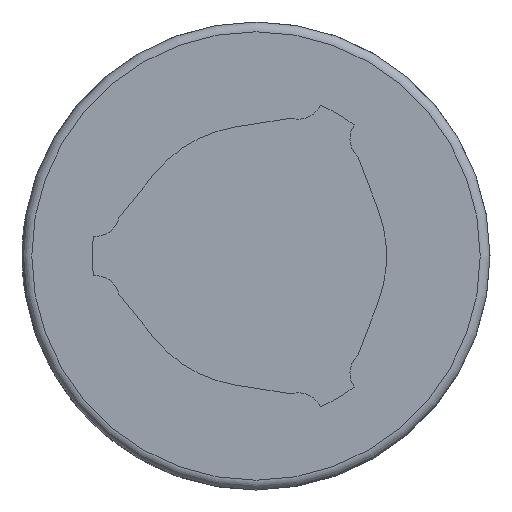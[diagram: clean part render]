
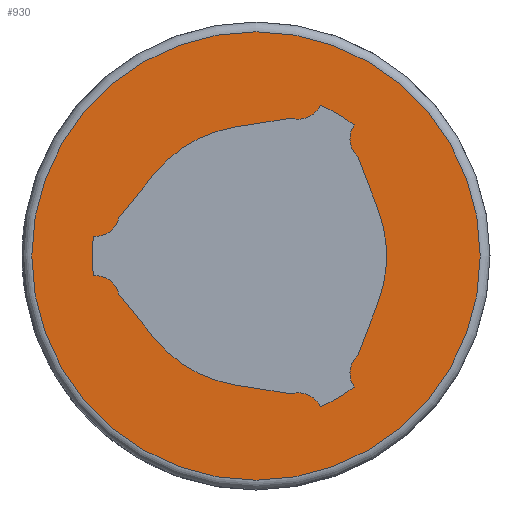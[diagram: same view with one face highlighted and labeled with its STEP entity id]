
A CAD part, left-side view. The second image highlights one B-rep face of the part: STEP entity #930.
In plain terms, the highlighted planar face has unit normal (-1, 0, 0).
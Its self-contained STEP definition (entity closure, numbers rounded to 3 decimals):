
#71=LINE('',#1439,#141);
#72=LINE('',#1448,#142);
#73=LINE('',#1452,#143);
#74=LINE('',#1460,#144);
#75=LINE('',#1464,#145);
#76=LINE('',#1472,#146);
#141=VECTOR('',#1135,1000.);
#142=VECTOR('',#1142,1000.);
#143=VECTOR('',#1145,1000.);
#144=VECTOR('',#1152,1000.);
#145=VECTOR('',#1155,1000.);
#146=VECTOR('',#1162,1000.);
#211=ORIENTED_EDGE('',*,*,#483,.F.);
#212=ORIENTED_EDGE('',*,*,#484,.T.);
#213=ORIENTED_EDGE('',*,*,#485,.F.);
#214=ORIENTED_EDGE('',*,*,#486,.T.);
#215=ORIENTED_EDGE('',*,*,#487,.F.);
#216=ORIENTED_EDGE('',*,*,#488,.T.);
#217=ORIENTED_EDGE('',*,*,#489,.T.);
#218=ORIENTED_EDGE('',*,*,#490,.T.);
#219=ORIENTED_EDGE('',*,*,#491,.F.);
#220=ORIENTED_EDGE('',*,*,#492,.T.);
#221=ORIENTED_EDGE('',*,*,#493,.F.);
#222=ORIENTED_EDGE('',*,*,#494,.T.);
#223=ORIENTED_EDGE('',*,*,#495,.T.);
#224=ORIENTED_EDGE('',*,*,#496,.T.);
#225=ORIENTED_EDGE('',*,*,#497,.F.);
#226=ORIENTED_EDGE('',*,*,#498,.T.);
#227=ORIENTED_EDGE('',*,*,#499,.F.);
#228=ORIENTED_EDGE('',*,*,#500,.T.);
#229=ORIENTED_EDGE('',*,*,#501,.T.);
#483=EDGE_CURVE('',#619,#619,#713,.T.);
#484=EDGE_CURVE('',#620,#621,#71,.T.);
#485=EDGE_CURVE('',#622,#621,#714,.T.);
#486=EDGE_CURVE('',#622,#623,#715,.T.);
#487=EDGE_CURVE('',#624,#623,#716,.T.);
#488=EDGE_CURVE('',#624,#625,#72,.T.);
#489=EDGE_CURVE('',#625,#626,#717,.T.);
#490=EDGE_CURVE('',#626,#627,#73,.T.);
#491=EDGE_CURVE('',#628,#627,#718,.T.);
#492=EDGE_CURVE('',#628,#629,#719,.T.);
#493=EDGE_CURVE('',#630,#629,#720,.T.);
#494=EDGE_CURVE('',#630,#631,#74,.T.);
#495=EDGE_CURVE('',#631,#632,#721,.T.);
#496=EDGE_CURVE('',#632,#633,#75,.T.);
#497=EDGE_CURVE('',#634,#633,#722,.T.);
#498=EDGE_CURVE('',#634,#635,#723,.T.);
#499=EDGE_CURVE('',#636,#635,#724,.T.);
#500=EDGE_CURVE('',#636,#637,#76,.T.);
#501=EDGE_CURVE('',#637,#620,#725,.T.);
#619=VERTEX_POINT('',#1438);
#620=VERTEX_POINT('',#1440);
#621=VERTEX_POINT('',#1441);
#622=VERTEX_POINT('',#1443);
#623=VERTEX_POINT('',#1445);
#624=VERTEX_POINT('',#1447);
#625=VERTEX_POINT('',#1449);
#626=VERTEX_POINT('',#1451);
#627=VERTEX_POINT('',#1453);
#628=VERTEX_POINT('',#1455);
#629=VERTEX_POINT('',#1457);
#630=VERTEX_POINT('',#1459);
#631=VERTEX_POINT('',#1461);
#632=VERTEX_POINT('',#1463);
#633=VERTEX_POINT('',#1465);
#634=VERTEX_POINT('',#1467);
#635=VERTEX_POINT('',#1469);
#636=VERTEX_POINT('',#1471);
#637=VERTEX_POINT('',#1473);
#713=CIRCLE('',#1013,57.5);
#714=CIRCLE('',#1014,6.19);
#715=CIRCLE('',#1015,42.);
#716=CIRCLE('',#1016,6.19);
#717=CIRCLE('',#1017,33.5);
#718=CIRCLE('',#1018,6.19);
#719=CIRCLE('',#1019,42.);
#720=CIRCLE('',#1020,6.19);
#721=CIRCLE('',#1021,33.5);
#722=CIRCLE('',#1022,6.19);
#723=CIRCLE('',#1023,42.);
#724=CIRCLE('',#1024,6.19);
#725=CIRCLE('',#1025,33.5);
#772=EDGE_LOOP('',(#211));
#773=EDGE_LOOP('',(#212,#213,#214,#215,#216,#217,#218,#219,#220,#221,#222,
#223,#224,#225,#226,#227,#228,#229));
#840=FACE_BOUND('',#772,.T.);
#841=FACE_BOUND('',#773,.T.);
#908=PLANE('',#1012);
#930=ADVANCED_FACE('',(#840,#841),#908,.F.);
#1012=AXIS2_PLACEMENT_3D('',#1436,#1131,#1132);
#1013=AXIS2_PLACEMENT_3D('',#1437,#1133,#1134);
#1014=AXIS2_PLACEMENT_3D('',#1442,#1136,#1137);
#1015=AXIS2_PLACEMENT_3D('',#1444,#1138,#1139);
#1016=AXIS2_PLACEMENT_3D('',#1446,#1140,#1141);
#1017=AXIS2_PLACEMENT_3D('',#1450,#1143,#1144);
#1018=AXIS2_PLACEMENT_3D('',#1454,#1146,#1147);
#1019=AXIS2_PLACEMENT_3D('',#1456,#1148,#1149);
#1020=AXIS2_PLACEMENT_3D('',#1458,#1150,#1151);
#1021=AXIS2_PLACEMENT_3D('',#1462,#1153,#1154);
#1022=AXIS2_PLACEMENT_3D('',#1466,#1156,#1157);
#1023=AXIS2_PLACEMENT_3D('',#1468,#1158,#1159);
#1024=AXIS2_PLACEMENT_3D('',#1470,#1160,#1161);
#1025=AXIS2_PLACEMENT_3D('',#1474,#1163,#1164);
#1131=DIRECTION('',(1.,0.,0.));
#1132=DIRECTION('',(0.,0.,-1.));
#1133=DIRECTION('',(1.,0.,0.));
#1134=DIRECTION('',(0.,0.,-1.));
#1135=DIRECTION('',(0.,-0.988,0.156));
#1136=DIRECTION('',(1.,0.,0.));
#1137=DIRECTION('',(0.,0.,-1.));
#1138=DIRECTION('',(1.,0.,0.));
#1139=DIRECTION('',(0.,0.,-1.));
#1140=DIRECTION('',(1.,0.,0.));
#1141=DIRECTION('',(0.,0.,-1.));
#1142=DIRECTION('',(0.,-0.358,-0.934));
#1143=DIRECTION('',(1.,0.,0.));
#1144=DIRECTION('',(0.,0.,-1.));
#1145=DIRECTION('',(0.,0.358,-0.934));
#1146=DIRECTION('',(1.,0.,0.));
#1147=DIRECTION('',(0.,0.,-1.));
#1148=DIRECTION('',(1.,0.,0.));
#1149=DIRECTION('',(0.,0.,-1.));
#1150=DIRECTION('',(1.,0.,0.));
#1151=DIRECTION('',(0.,0.,-1.));
#1152=DIRECTION('',(0.,0.988,0.156));
#1153=DIRECTION('',(1.,0.,0.));
#1154=DIRECTION('',(0.,0.,-1.));
#1155=DIRECTION('',(0.,0.629,0.777));
#1156=DIRECTION('',(1.,0.,0.));
#1157=DIRECTION('',(0.,0.,-1.));
#1158=DIRECTION('',(1.,0.,0.));
#1159=DIRECTION('',(0.,0.,-1.));
#1160=DIRECTION('',(1.,0.,0.));
#1161=DIRECTION('',(0.,0.,-1.));
#1162=DIRECTION('',(0.,-0.629,0.777));
#1163=DIRECTION('',(1.,0.,0.));
#1164=DIRECTION('',(0.,0.,-1.));
#1436=CARTESIAN_POINT('',(0.,0.,0.));
#1437=CARTESIAN_POINT('',(0.,0.,0.));
#1438=CARTESIAN_POINT('',(0.,0.,-57.5));
#1439=CARTESIAN_POINT('',(0.,5.241,33.088));
#1440=CARTESIAN_POINT('',(0.,5.241,33.088));
#1441=CARTESIAN_POINT('',(0.,-9.035,35.349));
#1442=CARTESIAN_POINT('',(0.,-10.881,41.257));
#1443=CARTESIAN_POINT('',(0.,-16.486,38.629));
#1444=CARTESIAN_POINT('',(0.,0.,0.));
#1445=CARTESIAN_POINT('',(0.,-25.211,33.592));
#1446=CARTESIAN_POINT('',(0.,-30.289,30.052));
#1447=CARTESIAN_POINT('',(0.,-26.095,25.499));
#1448=CARTESIAN_POINT('',(0.,-26.095,25.499));
#1449=CARTESIAN_POINT('',(0.,-31.275,12.005));
#1450=CARTESIAN_POINT('',(0.,0.,0.));
#1451=CARTESIAN_POINT('',(0.,-31.275,-12.005));
#1452=CARTESIAN_POINT('',(0.,-31.275,-12.005));
#1453=CARTESIAN_POINT('',(0.,-26.095,-25.499));
#1454=CARTESIAN_POINT('',(0.,-30.289,-30.052));
#1455=CARTESIAN_POINT('',(0.,-25.211,-33.592));
#1456=CARTESIAN_POINT('',(0.,0.,0.));
#1457=CARTESIAN_POINT('',(0.,-16.486,-38.629));
#1458=CARTESIAN_POINT('',(0.,-10.881,-41.257));
#1459=CARTESIAN_POINT('',(0.,-9.035,-35.349));
#1460=CARTESIAN_POINT('',(0.,-9.035,-35.349));
#1461=CARTESIAN_POINT('',(0.,5.241,-33.088));
#1462=CARTESIAN_POINT('',(0.,0.,0.));
#1463=CARTESIAN_POINT('',(0.,26.034,-21.082));
#1464=CARTESIAN_POINT('',(0.,26.034,-21.082));
#1465=CARTESIAN_POINT('',(0.,35.131,-9.849));
#1466=CARTESIAN_POINT('',(0.,41.17,-11.205));
#1467=CARTESIAN_POINT('',(0.,41.697,-5.037));
#1468=CARTESIAN_POINT('',(0.,0.,0.));
#1469=CARTESIAN_POINT('',(0.,41.697,5.037));
#1470=CARTESIAN_POINT('',(0.,41.17,11.205));
#1471=CARTESIAN_POINT('',(0.,35.131,9.849));
#1472=CARTESIAN_POINT('',(0.,35.131,9.849));
#1473=CARTESIAN_POINT('',(0.,26.034,21.082));
#1474=CARTESIAN_POINT('',(0.,0.,0.));
